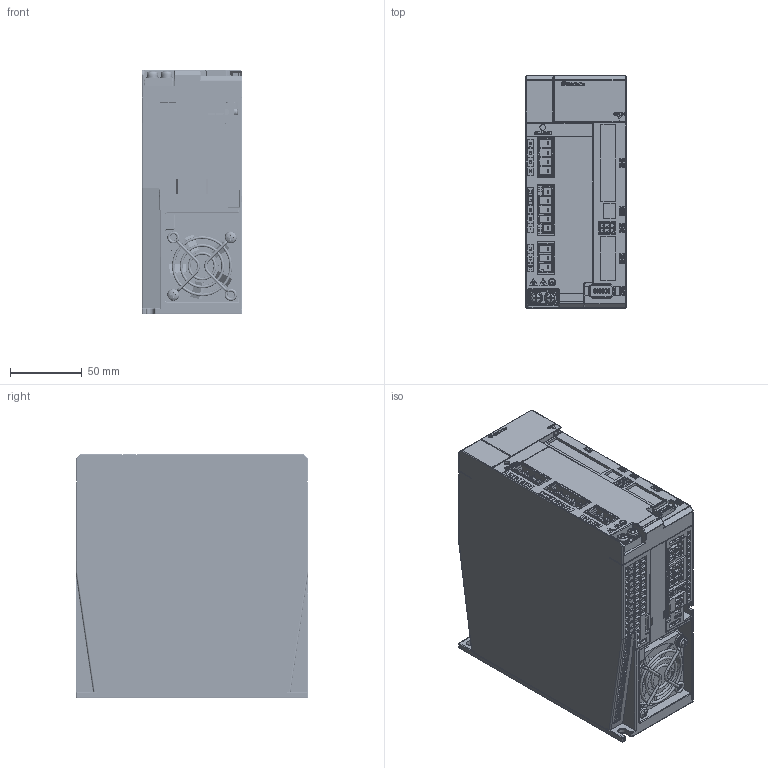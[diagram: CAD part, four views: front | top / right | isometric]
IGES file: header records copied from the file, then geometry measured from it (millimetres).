
Global section: file name: HNo Iges File Name specified; native system: AutoDesk Inventor R12.0; preprocessor: AutoDesk Inventor Iges Exporter R12.0; author: No Author specified; organization: No Organization specified; date: 20210415.160104; units: millimetre
Bounding box: 70 x 162 x 170.4 mm (x, y, z)
Volume: 1618509.1 mm3; surface area: 214668.4 mm2
Topology: 10 solids, 14 shells, 8923 faces, 25471 edges, 16842 vertices
Faces by surface type: plane 6850, revolution 840, cylinder 585, bspline 345, torus 147, cone 89, sphere 67
Full cylindrical faces by diameter (mm): 1.267 x4, 1.9 x4, 2 x2, 2.693 x6, 3 x6, 3.4 x4, 3.571 x2, 3.621 x2, 4 x4, 4.33 x1, 6 x6, 9 x2, 10 x2, 23 x1
